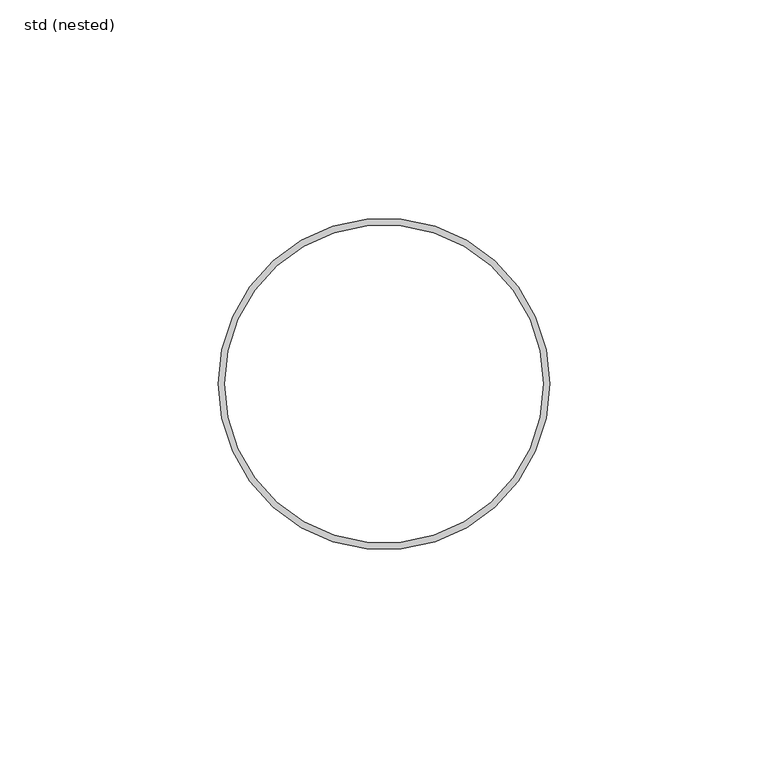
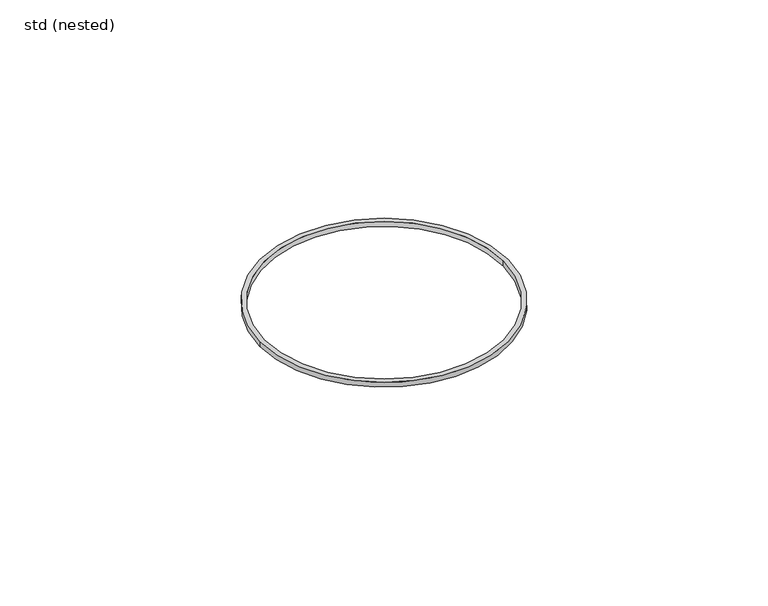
"""IFC4 building model written with IfcOpenShell, lengths in millimetres: pipe fitting geometry, ZZZ_do not use_PIF_GEN_WPB_GM-X (compound) pipe seal_ACO : std (nested)."""

import ifcopenshell
import ifcopenshell.guid

model = None  # the IFC model being written
_history = None  # IfcOwnerHistory: only IFC2X3 demands one
_inside = {}  # id of a spatial element -> (the spatial element, [elements in it])
_under = {}  # id of a project, library or spatial element -> (it, [spatial elements below it])
_declared = {}  # id of a project -> (the project, [libraries it declares])
_typed = {}  # id of a type object -> (the type object, [elements of that type])
_made_of = {}  # id of a material, layer set ... -> (it, [elements and type objects made of it])


def new_model(schema):
    """Start an empty IFC model of exactly this schema.

    Asked for "IFC4X3", IfcOpenShell would pick the latest addendum, in which some entities
    have other attributes; the version numbers below select the first issue.
    IFC2X3 requires an IfcOwnerHistory on every rooted entity: one is made here for all.
    """
    global model, _history
    if schema == "IFC4X3":
        model = ifcopenshell.file(schema_version=(4, 3, 0, 0))
    else:
        model = ifcopenshell.file(schema=schema)
    _inside.clear()
    _under.clear()
    _declared.clear()
    _typed.clear()
    _made_of.clear()
    _history = None
    if model.schema == "IFC2X3":
        org = make("IfcOrganization", Name="unknown")
        user = make(
            "IfcPersonAndOrganization",
            ThePerson=make("IfcPerson", FamilyName="unknown"),
            TheOrganization=org,
        )
        app = make(
            "IfcApplication",
            ApplicationDeveloper=org,
            Version="unknown",
            ApplicationFullName="unknown",
            ApplicationIdentifier="unknown",
        )
        _history = make(
            "IfcOwnerHistory",
            OwningUser=user,
            OwningApplication=app,
            ChangeAction="ADDED",
            CreationDate=0,
        )
    return model


def make(cls, **values):
    """One entity of the class cls with the attributes given. An attribute that is None is left unset."""
    return model.create_entity(
        cls, **{name: value for name, value in values.items() if value is not None}
    )


def rooted(cls, **values):
    """An entity with a GlobalId (a new one), such as an element, a storey or a relation."""
    return make(cls, GlobalId=ifcopenshell.guid.new(), OwnerHistory=_history, **values)


def si_unit(unit_type, name, prefix=None):
    """IfcSIUnit, for example si_unit("LENGTHUNIT", "METRE", prefix="MILLI")."""
    return make("IfcSIUnit", UnitType=unit_type, Prefix=prefix, Name=name)


def assignment(units):
    """IfcUnitAssignment: the units of a project."""
    return None if units is None else make("IfcUnitAssignment", Units=units)


def point(xyz):
    """IfcCartesianPoint."""
    return None if xyz is None else make("IfcCartesianPoint", Coordinates=xyz)


def direction(xyz):
    """IfcDirection."""
    return None if xyz is None else make("IfcDirection", DirectionRatios=xyz)


def frame(location, z_axis=None, x_axis=None):
    """IfcAxis2Placement3D, a coordinate frame: its origin and axes. An axis left out is left unset."""
    return make(
        "IfcAxis2Placement3D",
        Location=point(location),
        Axis=direction(z_axis),
        RefDirection=direction(x_axis),
    )


def frame_2d(location, x_axis=None):
    """IfcAxis2Placement2D, a coordinate frame in the plane: its origin and x axis."""
    return make(
        "IfcAxis2Placement2D", Location=point(location), RefDirection=direction(x_axis)
    )


def origin():
    """The frame at (0, 0, 0) with its axes left unset."""
    return frame((0.0, 0.0, 0.0))


def origin_2d():
    """The frame at (0, 0) in the plane with its x axis left unset."""
    return frame_2d((0.0, 0.0))


def place(relative_to, where):
    """IfcLocalPlacement: puts the frame where relative to a parent placement (None: the world)."""
    return make(
        "IfcLocalPlacement", PlacementRelTo=relative_to, RelativePlacement=where
    )


def context(
    kind, dimensions, precision=None, world=None, true_north=None, identifier=None
):
    """IfcGeometricRepresentationContext, for example the 3D "Model" context."""
    return make(
        "IfcGeometricRepresentationContext",
        ContextIdentifier=identifier,
        ContextType=kind,
        CoordinateSpaceDimension=dimensions,
        Precision=precision,
        WorldCoordinateSystem=world,
        TrueNorth=true_north,
    )


def project(units=None, contexts=None):
    """IfcProject with its units and contexts."""
    return rooted(
        "IfcProject",
        Name="project",
        RepresentationContexts=contexts,
        UnitsInContext=assignment(units),
    )


def spatial(cls, under=None, at=None, **own):
    """A site, building, storey or space (cls), placed at a placement, below another one or the project."""
    s = rooted(cls, ObjectPlacement=at, **own)
    if under is not None:
        _under.setdefault(under.id(), (under, []))[1].append(s)
    return s


def circle_curve(where, radius):
    """IfcCircle in the frame where."""
    return make("IfcCircle", Position=where, Radius=radius)


def trimmed(basis, trim1, trim2, sense, master):
    """IfcTrimmedCurve: the piece of a basis curve between two trims."""
    return make(
        "IfcTrimmedCurve",
        BasisCurve=basis,
        Trim1=trim1,
        Trim2=trim2,
        SenseAgreement=sense,
        MasterRepresentation=master,
    )


def segment(curve, same_sense, transition):
    """IfcCompositeCurveSegment."""
    return make(
        "IfcCompositeCurveSegment",
        Transition=transition,
        SameSense=same_sense,
        ParentCurve=curve,
    )


def composite_curve(segments, self_intersect=None):
    """IfcCompositeCurve: segments joined end to end."""
    return make("IfcCompositeCurve", Segments=segments, SelfIntersect=self_intersect)


def outline(outer, holes=None, kind="AREA"):
    """IfcArbitraryClosedProfileDef: a profile drawn as a closed curve; with holes, ...WithVoids."""
    if holes is None:
        return make("IfcArbitraryClosedProfileDef", ProfileType=kind, OuterCurve=outer)
    return make(
        "IfcArbitraryProfileDefWithVoids",
        ProfileType=kind,
        OuterCurve=outer,
        InnerCurves=holes,
    )


def extrude(swept, where, along, depth):
    """IfcExtrudedAreaSolid: the profile swept, set in the frame where, extruded along a direction by depth."""
    return make(
        "IfcExtrudedAreaSolid",
        SweptArea=swept,
        Position=where,
        ExtrudedDirection=direction(along),
        Depth=depth,
    )


def shape(context_of_items, identifier, shape_type, items):
    """IfcShapeRepresentation: the items that make up one representation, for example the "Body"."""
    return make(
        "IfcShapeRepresentation",
        ContextOfItems=context_of_items,
        RepresentationIdentifier=identifier,
        RepresentationType=shape_type,
        Items=items,
    )


def source(mapping_origin, context_of_items, identifier, shape_type, items):
    """IfcRepresentationMap: a shape defined once, which mapped items show again and again."""
    return make(
        "IfcRepresentationMap",
        MappingOrigin=mapping_origin,
        MappedRepresentation=shape(context_of_items, identifier, shape_type, items),
    )


def transform(
    local_origin,
    x_axis=None,
    y_axis=None,
    z_axis=None,
    scale=None,
    scale2=None,
    scale3=None,
    uniform=True,
):
    """IfcCartesianTransformationOperator3D, or its non-uniform kind. x_axis, y_axis, z_axis: its Axis1, 2, 3."""
    if uniform:
        return make(
            "IfcCartesianTransformationOperator3D",
            Axis1=direction(x_axis),
            Axis2=direction(y_axis),
            LocalOrigin=point(local_origin),
            Scale=scale,
            Axis3=direction(z_axis),
        )
    return make(
        "IfcCartesianTransformationOperator3DnonUniform",
        Axis1=direction(x_axis),
        Axis2=direction(y_axis),
        LocalOrigin=point(local_origin),
        Scale=scale,
        Axis3=direction(z_axis),
        Scale2=scale2,
        Scale3=scale3,
    )


def mapped(mapping_source, mapping_target):
    """IfcMappedItem: shows the shape of a source again, moved by a transform."""
    return make(
        "IfcMappedItem", MappingSource=mapping_source, MappingTarget=mapping_target
    )


def made_of(thing, what):
    """Note that an element or type object is made of a material, layer set ...; save() writes the relation."""
    if what is not None:
        _made_of.setdefault(what.id(), (what, []))[1].append(thing)
    return thing


def element(
    cls,
    number,
    at=None,
    inside=None,
    cuts=None,
    type_object=None,
    material=None,
    context=None,
    identifier="Body",
    shape_type=None,
    held_by="IfcProductDefinitionShape",
    body=None,
    shapes=None,
    **own,
):
    """One element of the class cls, such as IfcWall. Its Tag is "e" and its number.

    at: its placement. inside: the storey or other place that contains it. cuts: it is an
    opening in that element (IfcRelVoidsElement). A single representation is given by context,
    identifier, shape_type and body (its items); several are given by shapes. held_by: the class
    of the entity that holds the representations. save() writes the other relations.
    """
    e = rooted(cls, Tag="e%d" % number, ObjectPlacement=at, **own)
    if body is not None:
        shapes = [shape(context, identifier, shape_type, body)]
    if shapes is not None:
        e.Representation = make(held_by, Representations=shapes)
    if inside is not None:
        _inside.setdefault(inside.id(), (inside, []))[1].append(e)
    if cuts is not None:
        rooted(
            "IfcRelVoidsElement", RelatingBuildingElement=cuts, RelatedOpeningElement=e
        )
    if type_object is not None:
        _typed.setdefault(type_object.id(), (type_object, []))[1].append(e)
    return made_of(e, material)


def aggregate(whole, parts):
    """IfcRelAggregates: a whole, such as a stair, and the parts it consists of."""
    return rooted("IfcRelAggregates", RelatingObject=whole, RelatedObjects=parts)


def save(model, path):
    """Write the relations noted so far, then the file.

    IfcRelAggregates (storeys below a building ...), IfcRelContainedInSpatialStructure (elements
    in a storey), IfcRelDefinesByType, IfcRelAssociatesMaterial and IfcRelDeclares: one each for
    every whole, place, type object, material and project.
    """
    for whole, parts in _under.values():
        aggregate(whole, parts)
    for where, things in _inside.values():
        rooted(
            "IfcRelContainedInSpatialStructure",
            RelatedElements=things,
            RelatingStructure=where,
        )
    for kind, things in _typed.values():
        rooted("IfcRelDefinesByType", RelatedObjects=things, RelatingType=kind)
    for what, things in _made_of.values():
        rooted("IfcRelAssociatesMaterial", RelatedObjects=things, RelatingMaterial=what)
    for by, libraries in _declared.values():
        rooted("IfcRelDeclares", RelatingContext=by, RelatedDefinitions=libraries)
    model.write(path)


def std_nested_8359234f(model_context):
    return source(origin(), model_context, "Body", "SweptSolid", [
        extrude(outline(composite_curve([segment(trimmed(circle_curve(origin_2d(), 38.0), [point((38.0, 0.0))], [point((-38.0, 0.0))], False, "CARTESIAN"), True, "CONTINUOUS"), segment(trimmed(circle_curve(origin_2d(), 38.0), [point((-38.0, 0.0))], [point((38.0, 0.0))], False, "CARTESIAN"), True, "CONTINUOUS")], self_intersect=False), holes=[composite_curve([segment(trimmed(circle_curve(origin_2d(), 36.5), [point((36.5, 0.0))], [point((-36.5, 0.0))], True, "CARTESIAN"), True, "CONTINUOUS"), segment(trimmed(circle_curve(origin_2d(), 36.5), [point((-36.5, 0.0))], [point((36.5, 0.0))], True, "CARTESIAN"), True, "CONTINUOUS")], self_intersect=False)]), frame((0.0, 0.0, -56.6), z_axis=(0.0, 0.0, 1.0), x_axis=(1.0, 0.0, 0.0)), (0.0, 0.0, 1.0), 1.6),
    ])


if __name__ == "__main__":
    model = new_model("IFC4")
    model_context = context("Model", 3, world=origin())
    ifc_project = project(units=[si_unit("LENGTHUNIT", "METRE", prefix="MILLI")], contexts=[model_context])
    site = spatial("IfcSite", under=ifc_project)
    building = spatial("IfcBuilding", under=site)
    placement = place(None, origin())
    std_nested_shape = std_nested_8359234f(model_context)
    element("IfcPipeFitting", 1, ObjectType="ZZZ_do not use_PIF_GEN_WPB_GM-X (compound) pipe seal_ACO : std (nested)", at=placement, inside=building, context=model_context, shape_type="MappedRepresentation", body=[
        mapped(std_nested_shape, transform((0.0, 0.0, 0.0), x_axis=(1.0, 0.0, 0.0), y_axis=(0.0, 1.0, 0.0), z_axis=(0.0, 0.0, 1.0))),
    ])
    save(model, "model.ifc")
